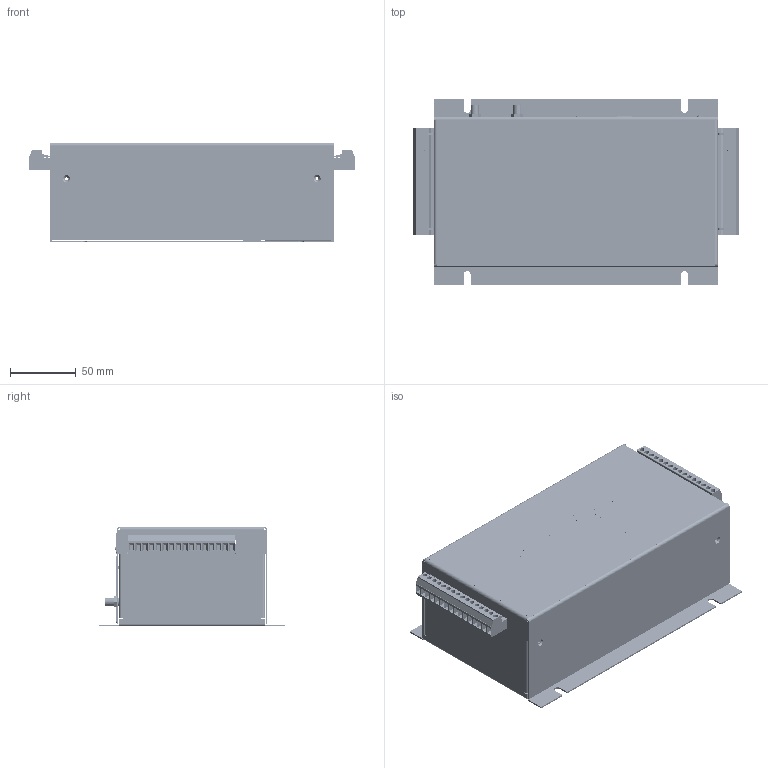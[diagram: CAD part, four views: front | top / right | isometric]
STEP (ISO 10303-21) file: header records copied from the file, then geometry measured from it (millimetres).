
FILE_DESCRIPTION(/* description */ ('Alibre Inc.'),/* implementation_level */ '2;1');
FILE_NAME(/* name */ 'export-BAF589AC-8A1A-491B-A0F3-5521818CDA0A',/* time_stamp */ '2019-05-27T15:34:04-06:00',/* author */ (''),/* organization */ (''),/* preprocessor_version */ 'ST-DEVELOPER v17',/* originating_system */ 'Alibre',/* authorisation */ '');
FILE_SCHEMA (('CONFIG_CONTROL_DESIGN'));
Products named in the file (804): ID_1; ID_2; ID_3; ID_4; ID_5; ID_6; ID_7; ID_8; ID_9; ID_10; ID_11; ID_12; ID_13; ID_14; ID_15; ID_16; ID_17; ID_18; ID_19; ID_20; ID_21; ID_22; ID_23; ID_24; ID_25; ID_26; ID_27; ID_28; ID_29; ID_30; ID_31; ID_32; ID_33; ID_34; ID_35; ID_36; ID_37; ID_38; ID_39; ID_40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
Bounding box: 248.3 x 140.97 x 76.19 mm (x, y, z)
Volume: 456682.5 mm3; surface area: 450313.1 mm2
Topology: 1857 solids, 1857 shells, 48205 faces, 120792 edges, 74011 vertices
Faces by surface type: plane 30154, cylinder 12175, bspline 3011, sphere 2371, cone 266, torus 222, extrusion 6
Full cylindrical faces by diameter (mm): 0.6 x1, 0.8 x2, 0.889 x6, 0.9 x2, 0.965 x10, 1.067 x28, 1.27 x2, 1.6 x39, 1.9 x1, 2.311 x4, 2.459 x2, 2.75 x1, 2.819 x4, 3.175 x8, 3.5 x2, 4.2 x3, 4.216 x9, 4.4 x2, 5.5 x2, 5.75 x1, 6 x2, 6.35 x2, 8.001 x8, 9.97 x6
Entity records: 728733 total; most frequent: CARTESIAN_POINT 176477, ORIENTED_EDGE 101782, DIRECTION 75433, EDGE_CURVE 50891, VECTOR 37533, LINE 37532, VERTEX_POINT 32775, AXIS2_PLACEMENT_3D 25828
